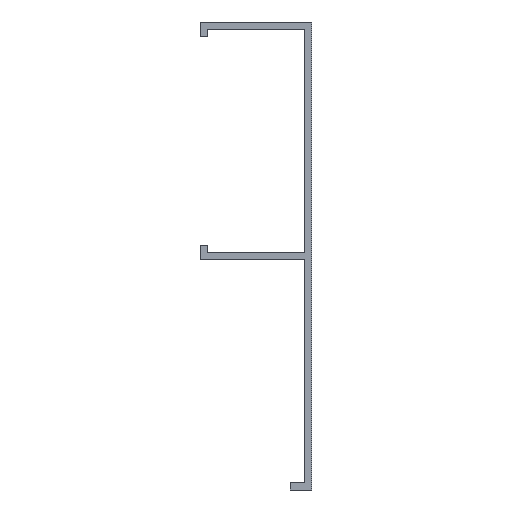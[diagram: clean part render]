
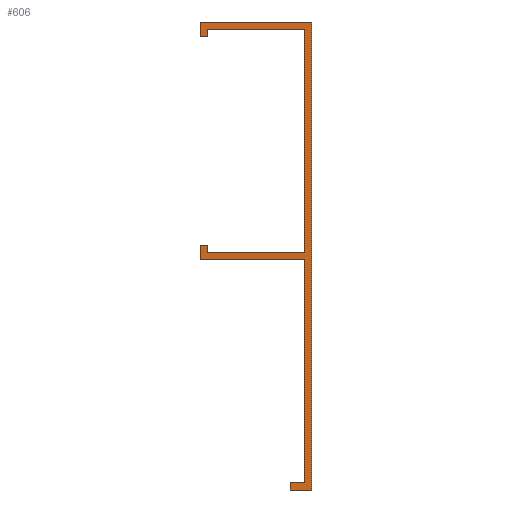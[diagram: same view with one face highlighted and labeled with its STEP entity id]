
A CAD part, left-side view. The second image highlights one B-rep face of the part: STEP entity #606.
In plain terms, the highlighted planar face has unit normal (-1, 0, 0).
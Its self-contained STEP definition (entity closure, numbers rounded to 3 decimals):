
#606=ADVANCED_FACE('',(#1076),#1077,.F.);
#1076=FACE_OUTER_BOUND('',#1672,.T.);
#1077=PLANE('',#1673);
#1672=EDGE_LOOP('',(#2346,#2347,#2348,#2349,#2350,#2351,#2352,#2353,#2354,#2355,#2356,#2357,#2358,#2359,#2360,#2361,#2362,#2363,#2364,#2365));
#1673=AXIS2_PLACEMENT_3D('',#2366,#2367,#2368);
#2346=ORIENTED_EDGE('',*,*,#2812,.T.);
#2347=ORIENTED_EDGE('',*,*,#2815,.T.);
#2348=ORIENTED_EDGE('',*,*,#2818,.T.);
#2349=ORIENTED_EDGE('',*,*,#2821,.T.);
#2350=ORIENTED_EDGE('',*,*,#2824,.T.);
#2351=ORIENTED_EDGE('',*,*,#2827,.T.);
#2352=ORIENTED_EDGE('',*,*,#2830,.T.);
#2353=ORIENTED_EDGE('',*,*,#2833,.T.);
#2354=ORIENTED_EDGE('',*,*,#2835,.T.);
#2355=ORIENTED_EDGE('',*,*,#2793,.T.);
#2356=ORIENTED_EDGE('',*,*,#2797,.T.);
#2357=ORIENTED_EDGE('',*,*,#2799,.T.);
#2358=ORIENTED_EDGE('',*,*,#2727,.T.);
#2359=ORIENTED_EDGE('',*,*,#2723,.T.);
#2360=ORIENTED_EDGE('',*,*,#2710,.T.);
#2361=ORIENTED_EDGE('',*,*,#2725,.F.);
#2362=ORIENTED_EDGE('',*,*,#2681,.T.);
#2363=ORIENTED_EDGE('',*,*,#2803,.T.);
#2364=ORIENTED_EDGE('',*,*,#2806,.T.);
#2365=ORIENTED_EDGE('',*,*,#2809,.T.);
#2366=CARTESIAN_POINT('',(0.0,-12.134,-26.482));
#2367=DIRECTION('',(1.0,0.0,0.0));
#2368=DIRECTION('',(0.0,0.0,-1.0));
#2681=EDGE_CURVE('',#3085,#3112,#3114,.T.);
#2710=EDGE_CURVE('',#3158,#3156,#3159,.T.);
#2723=EDGE_CURVE('',#3173,#3158,#3176,.T.);
#2725=EDGE_CURVE('',#3085,#3156,#3178,.T.);
#2727=EDGE_CURVE('',#3180,#3173,#3181,.T.);
#2793=EDGE_CURVE('',#3280,#3278,#3281,.T.);
#2797=EDGE_CURVE('',#3278,#3284,#3286,.T.);
#2799=EDGE_CURVE('',#3284,#3180,#3288,.T.);
#2803=EDGE_CURVE('',#3112,#3291,#3293,.T.);
#2806=EDGE_CURVE('',#3291,#3295,#3297,.T.);
#2809=EDGE_CURVE('',#3295,#3299,#3301,.T.);
#2812=EDGE_CURVE('',#3299,#3303,#3305,.T.);
#2815=EDGE_CURVE('',#3303,#3307,#3309,.T.);
#2818=EDGE_CURVE('',#3307,#3311,#3313,.T.);
#2821=EDGE_CURVE('',#3311,#3315,#3317,.T.);
#2824=EDGE_CURVE('',#3315,#3319,#3321,.T.);
#2827=EDGE_CURVE('',#3319,#3323,#3325,.T.);
#2830=EDGE_CURVE('',#3323,#3327,#3329,.T.);
#2833=EDGE_CURVE('',#3327,#3331,#3333,.T.);
#2835=EDGE_CURVE('',#3331,#3280,#3335,.T.);
#3085=VERTEX_POINT('',#3439);
#3112=VERTEX_POINT('',#3472);
#3114=LINE('',#3475,#3476);
#3156=VERTEX_POINT('',#3530);
#3158=VERTEX_POINT('',#3532);
#3159=LINE('',#3533,#3534);
#3173=VERTEX_POINT('',#3551);
#3176=LINE('',#3555,#3556);
#3178=LINE('',#3558,#3559);
#3180=VERTEX_POINT('',#3561);
#3181=LINE('',#3562,#3563);
#3278=VERTEX_POINT('',#3695);
#3280=VERTEX_POINT('',#3698);
#3281=LINE('',#3699,#3700);
#3284=VERTEX_POINT('',#3704);
#3286=LINE('',#3707,#3708);
#3288=LINE('',#3710,#3711);
#3291=VERTEX_POINT('',#3714);
#3293=LINE('',#3717,#3718);
#3295=VERTEX_POINT('',#3720);
#3297=LINE('',#3723,#3724);
#3299=VERTEX_POINT('',#3726);
#3301=LINE('',#3729,#3730);
#3303=VERTEX_POINT('',#3732);
#3305=LINE('',#3735,#3736);
#3307=VERTEX_POINT('',#3738);
#3309=LINE('',#3741,#3742);
#3311=VERTEX_POINT('',#3744);
#3313=LINE('',#3747,#3748);
#3315=VERTEX_POINT('',#3750);
#3317=LINE('',#3753,#3754);
#3319=VERTEX_POINT('',#3756);
#3321=LINE('',#3759,#3760);
#3323=VERTEX_POINT('',#3762);
#3325=LINE('',#3765,#3766);
#3327=VERTEX_POINT('',#3768);
#3329=LINE('',#3771,#3772);
#3331=VERTEX_POINT('',#3774);
#3333=LINE('',#3777,#3778);
#3335=LINE('',#3780,#3781);
#3439=CARTESIAN_POINT('',(0.,-14.495,-64.0));
#3472=CARTESIAN_POINT('',(0.0,-12.5,-64.0));
#3475=CARTESIAN_POINT('',(0.0,-14.5,-64.0));
#3476=VECTOR('',#3863,1.0);
#3530=CARTESIAN_POINT('',(0.,-14.495,-63.995));
#3532=CARTESIAN_POINT('',(0.,-14.497,-63.995));
#3533=CARTESIAN_POINT('',(0.,-14.497,-63.995));
#3534=VECTOR('',#3903,1.0);
#3551=CARTESIAN_POINT('',(0.,-14.497,-64.0));
#3555=CARTESIAN_POINT('',(0.,-14.497,-64.0));
#3556=VECTOR('',#3920,1.0);
#3558=CARTESIAN_POINT('',(0.,-14.495,-64.0));
#3559=VECTOR('',#3921,1.0);
#3561=CARTESIAN_POINT('',(0.0,-14.5,-64.0));
#3562=CARTESIAN_POINT('',(0.0,-14.5,-64.0));
#3563=VECTOR('',#3922,1.0);
#3695=CARTESIAN_POINT('',(0.0,0.0,-33.));
#3698=CARTESIAN_POINT('',(0.0,0.0,-31.));
#3699=CARTESIAN_POINT('',(0.0,0.0,-31.));
#3700=VECTOR('',#3995,1.0);
#3704=CARTESIAN_POINT('',(0.0,-14.5,-33.));
#3707=CARTESIAN_POINT('',(0.0,0.0,-33.));
#3708=VECTOR('',#3998,1.0);
#3710=CARTESIAN_POINT('',(0.0,-14.5,-32.5));
#3711=VECTOR('',#3999,1.0);
#3714=CARTESIAN_POINT('',(0.0,-12.5,-65.0));
#3717=CARTESIAN_POINT('',(0.0,-12.5,-64.0));
#3718=VECTOR('',#4001,1.0);
#3720=CARTESIAN_POINT('',(0.0,-15.5,-65.0));
#3723=CARTESIAN_POINT('',(0.0,-12.5,-65.0));
#3724=VECTOR('',#4003,1.0);
#3726=CARTESIAN_POINT('',(0.0,-15.5,0.0));
#3729=CARTESIAN_POINT('',(0.0,-15.5,-61.0));
#3730=VECTOR('',#4005,1.0);
#3732=CARTESIAN_POINT('',(0.0,0.0,0.0));
#3735=CARTESIAN_POINT('',(0.0,-15.5,0.0));
#3736=VECTOR('',#4007,1.0);
#3738=CARTESIAN_POINT('',(0.0,0.0,-2.0));
#3741=CARTESIAN_POINT('',(0.0,0.0,0.0));
#3742=VECTOR('',#4009,1.0);
#3744=CARTESIAN_POINT('',(0.0,-1.0,-2.0));
#3747=CARTESIAN_POINT('',(0.0,0.0,-2.0));
#3748=VECTOR('',#4011,1.0);
#3750=CARTESIAN_POINT('',(0.0,-1.0,-1.0));
#3753=CARTESIAN_POINT('',(0.0,-1.0,-2.0));
#3754=VECTOR('',#4013,1.0);
#3756=CARTESIAN_POINT('',(0.0,-14.5,-1.0));
#3759=CARTESIAN_POINT('',(0.0,-1.0,-1.0));
#3760=VECTOR('',#4015,1.0);
#3762=CARTESIAN_POINT('',(0.0,-14.5,-32.));
#3765=CARTESIAN_POINT('',(0.0,-14.5,-1.0));
#3766=VECTOR('',#4017,1.0);
#3768=CARTESIAN_POINT('',(0.0,-1.0,-32.));
#3771=CARTESIAN_POINT('',(0.0,-14.5,-32.));
#3772=VECTOR('',#4019,1.0);
#3774=CARTESIAN_POINT('',(0.0,-1.0,-31.));
#3777=CARTESIAN_POINT('',(0.0,-1.0,-32.));
#3778=VECTOR('',#4021,1.0);
#3780=CARTESIAN_POINT('',(0.0,-1.0,-31.));
#3781=VECTOR('',#4022,1.0);
#3863=DIRECTION('',(0.0,1.0,0.0));
#3903=DIRECTION('',(0.0,1.0,0.));
#3920=DIRECTION('',(0.0,0.,1.0));
#3921=DIRECTION('',(0.0,0.,1.0));
#3922=DIRECTION('',(0.0,1.0,0.0));
#3995=DIRECTION('',(0.0,0.0,-1.0));
#3998=DIRECTION('',(0.0,-1.0,0.0));
#3999=DIRECTION('',(0.0,0.0,-1.0));
#4001=DIRECTION('',(0.0,0.0,-1.0));
#4003=DIRECTION('',(0.0,-1.0,0.0));
#4005=DIRECTION('',(0.0,0.0,1.0));
#4007=DIRECTION('',(0.0,1.0,0.0));
#4009=DIRECTION('',(0.0,0.0,-1.0));
#4011=DIRECTION('',(0.0,-1.0,0.0));
#4013=DIRECTION('',(0.0,0.0,1.0));
#4015=DIRECTION('',(0.0,-1.0,0.0));
#4017=DIRECTION('',(0.0,0.0,-1.0));
#4019=DIRECTION('',(0.0,1.0,0.0));
#4021=DIRECTION('',(0.0,0.0,1.0));
#4022=DIRECTION('',(0.0,1.0,0.0));
